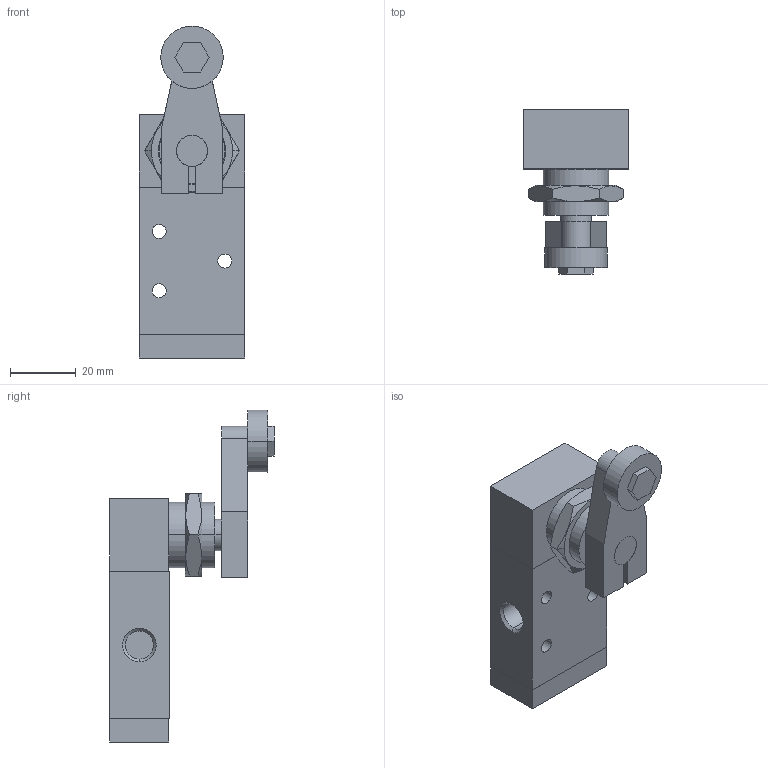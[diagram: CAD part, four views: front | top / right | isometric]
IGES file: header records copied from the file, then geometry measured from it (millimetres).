
Global section: file name: No Iges File Name specified; native system: AutoDesk Inventor R11.0; preprocessor: AutoDesk Inventor Iges Exporter R11.0; author: No Author specified; organization: No Organization specified; date: 20061219.113810; units: millimetre
Bounding box: 32 x 49.99 x 101 mm (x, y, z)
Volume: 39941 mm3; surface area: 15358.9 mm2
Topology: 2 solids, 2 shells, 87 faces, 204 edges, 128 vertices
Faces by surface type: plane 46, bspline 17, revolution 11, cylinder 9, cone 4
